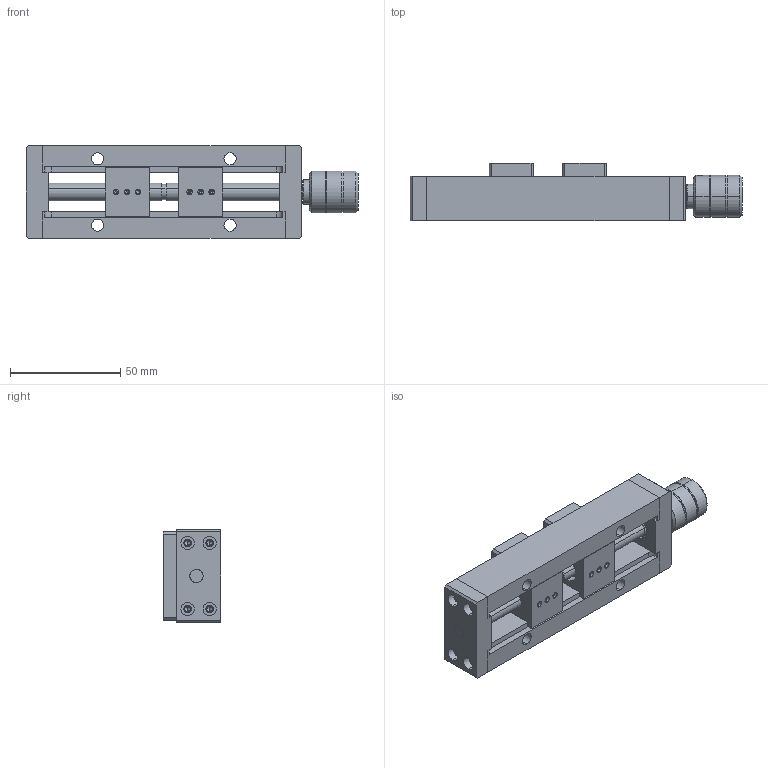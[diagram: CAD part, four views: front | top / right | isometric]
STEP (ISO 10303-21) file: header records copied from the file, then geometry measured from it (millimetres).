
FILE_DESCRIPTION (( 'STEP AP203' ), '1' );
FILE_NAME ('BANON60.STEP', '2024-02-28T06:21:13', ( 'China' ), ( 'Microsoft' ), 'SwSTEP 2.0', 'SolidWorks 2024', '' );
FILE_SCHEMA (( 'CONFIG_CONTROL_DESIGN' ));
Length unit declared in the file: millimetre
Products named in the file (1): BANON60
Bounding box: 150.5 x 26 x 42 mm (x, y, z)
Volume: 93284.8 mm3; surface area: 47006.5 mm2
Topology: 30 solids, 30 shells, 960 faces, 2782 edges, 1764 vertices
Faces by surface type: plane 368, cylinder 284, torus 128, cone 120, sphere 60
Entity records: 32119 total; most frequent: CARTESIAN_POINT 7885, ORIENTED_EDGE 5076, DIRECTION 5068, EDGE_CURVE 2538, AXIS2_PLACEMENT_3D 2033, VERTEX_POINT 1644, EDGE_LOOP 1138, CIRCLE 1072
